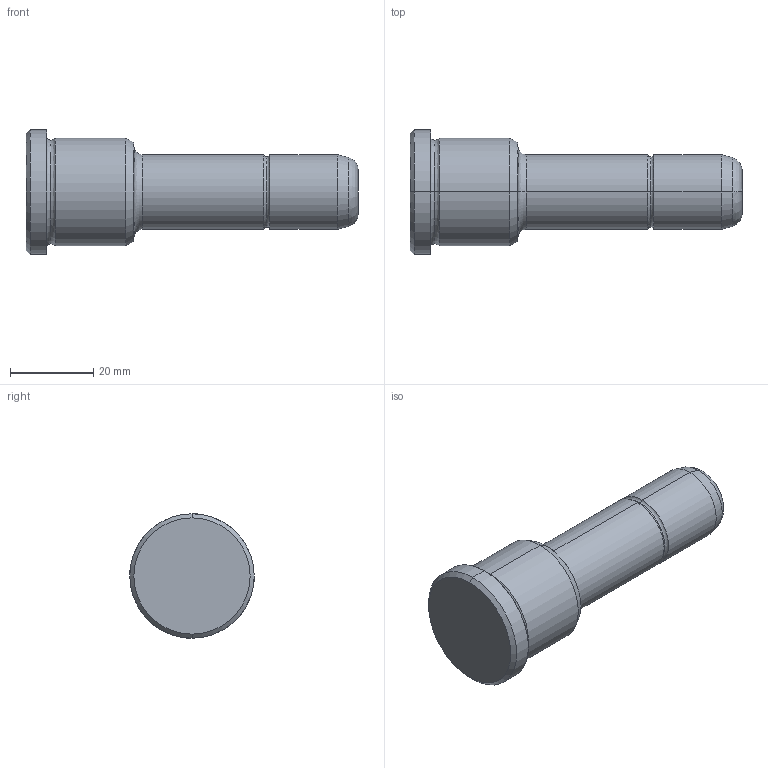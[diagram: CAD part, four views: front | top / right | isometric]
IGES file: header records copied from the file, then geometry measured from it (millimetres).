
Start section: START RECORD GO HERE.
Global section: file name: 351-18X26X80.igs; native system: DASSAULT SYSTEMES CATIA V5 R20 - www.3ds.com; preprocessor: CATIA Version 5 Release 20 ; author: Utente; organization: NB04-ASUS; date: 20210819.144826; units: millimetre
Bounding box: 80 x 30 x 30 mm (x, y, z)
Surface area: 6402.5 mm2 (no closed solid volume)
Topology: 0 solids, 0 shells, 30 faces, 172 edges, 172 vertices
Faces by surface type: revolution 26, plane 4
